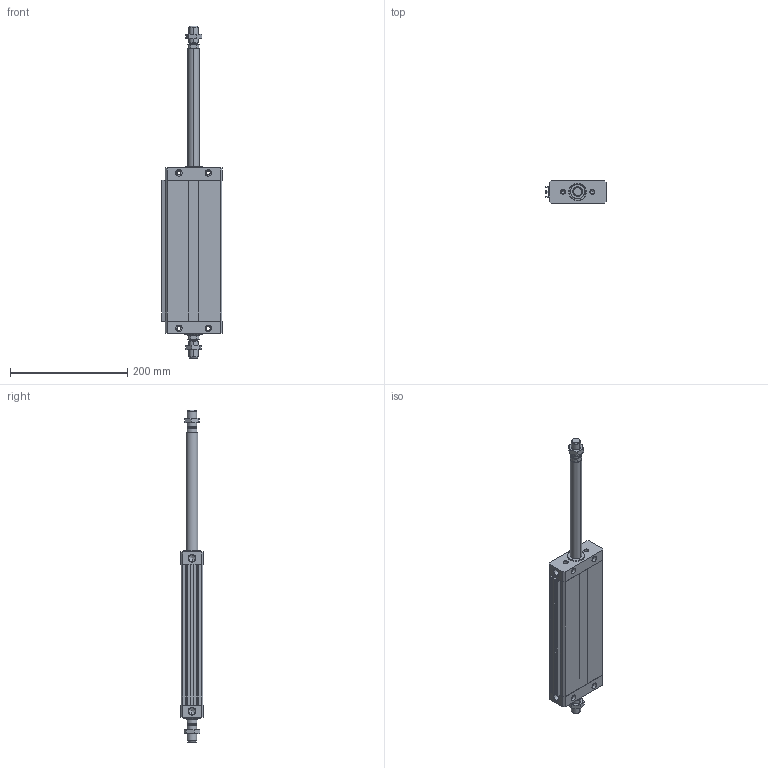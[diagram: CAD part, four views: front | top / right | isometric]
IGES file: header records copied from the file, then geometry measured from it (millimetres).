
Global section: file name: No Iges File Name specified; native system: Autodesk Inventor 2011; preprocessor: AutoDesk Inventor Iges Exporter R2011; author: airolcr1; date: 20101213.153402; units: millimetre
Bounding box: 102.5 x 38 x 566 mm (x, y, z)
Volume: 746289 mm3; surface area: 204965 mm2
Topology: 6 solids, 6 shells, 280 faces, 664 edges, 396 vertices
Faces by surface type: bspline 114, plane 98, cone 36, cylinder 18, revolution 14
